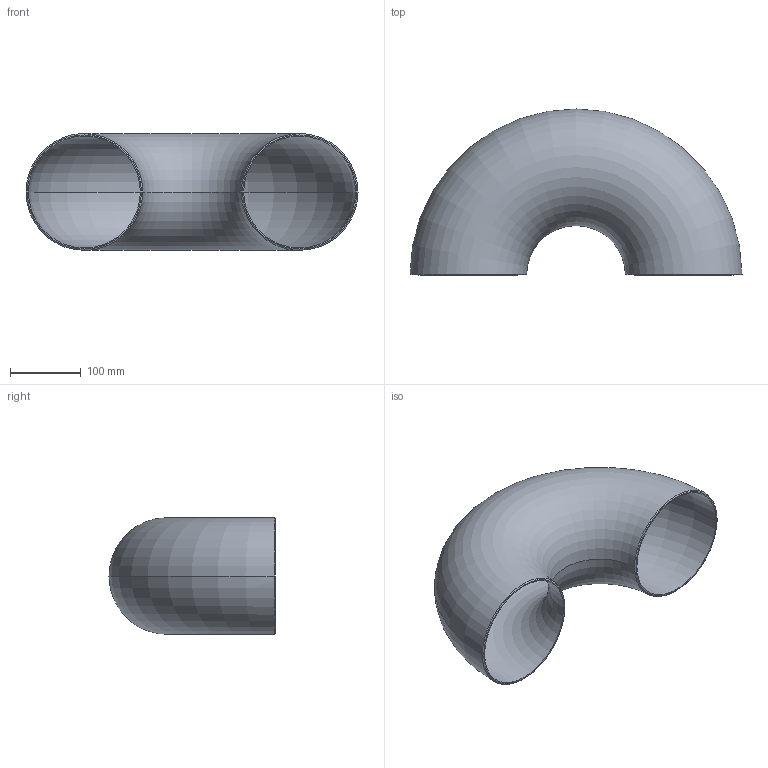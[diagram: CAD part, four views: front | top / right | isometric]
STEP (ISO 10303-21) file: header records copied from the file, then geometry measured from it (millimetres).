
FILE_DESCRIPTION (( 'STEP AP214' ), '1' );
FILE_NAME ('Elbow-short-180deg_Sch10S-150A.STEP', '2022-06-23T05:30:19', ( 'ASIS User' ), ( 'ASIS User' ), 'SwSTEP 2.0', 'SolidWorks 2022', '' );
FILE_SCHEMA (( 'AUTOMOTIVE_DESIGN' ));
Length unit declared in the file: millimetre
Products named in the file (1): Elbow-short-180deg_Sch10S-150A
Bounding box: 469.99 x 235 x 165.2 mm (x, y, z)
Volume: 826346.5 mm3; surface area: 489344.2 mm2
Topology: 1 solids, 1 shells, 10 faces, 24 edges, 16 vertices
Faces by surface type: torus 4, cone 4, plane 2
Entity records: 627 total; most frequent: CARTESIAN_POINT 356, DIRECTION 50, ORIENTED_EDGE 48, EDGE_CURVE 24, AXIS2_PLACEMENT_3D 23, VERTEX_POINT 16, CIRCLE 12, EDGE_LOOP 12
